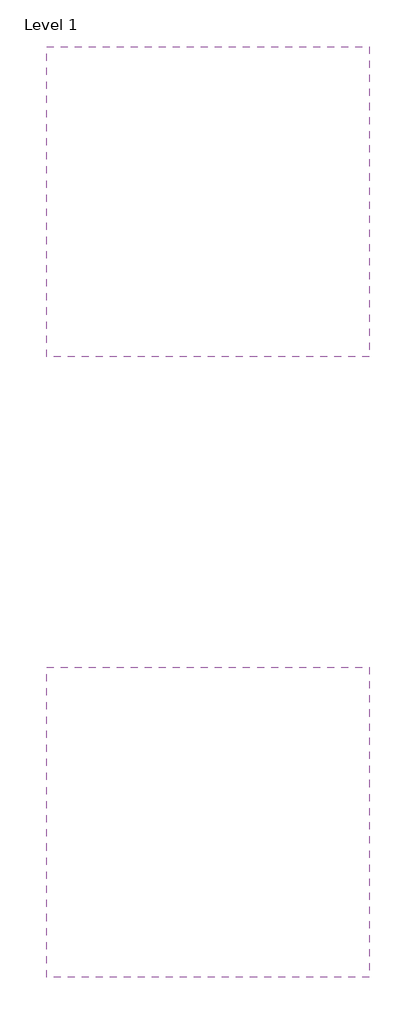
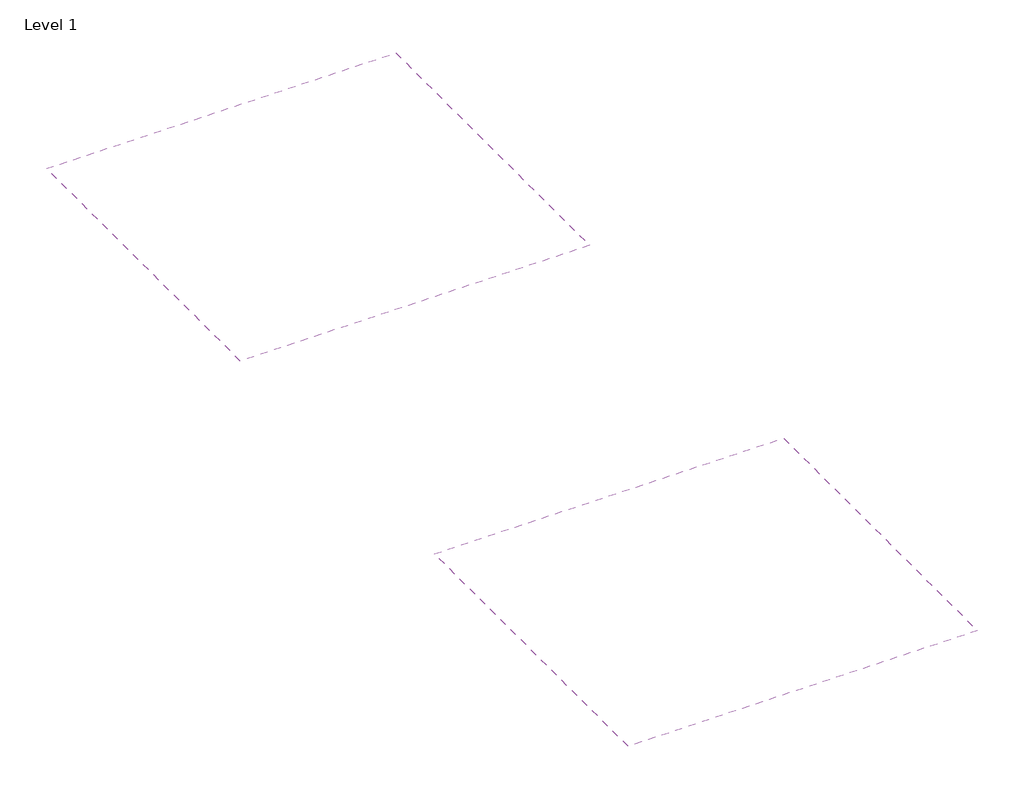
# One storey: 2 coverings.
"""IFC4 building model written with IfcOpenShell, lengths in millimetres."""

from ifc_helpers import new_model, si_unit, frame, origin, place, context, project, spatial, polyline, outline, extrude, element, save

model = new_model("IFC4")

# Units and contexts
model_context = context("Model", 3, world=origin())
ifc_project = project(units=[si_unit("LENGTHUNIT", "METRE", prefix="MILLI")], contexts=[model_context])

# Site, building, storey
site = spatial("IfcSite", under=ifc_project)
building = spatial("IfcBuilding", under=site)
storey = spatial("IfcBuildingStorey", under=building, Name="Level 1", Elevation=0.0)

# Coverings
placement = place(None, origin())
element("IfcCovering", 1, ObjectType="NBS_ArmstrongCeilingsLtd_UnitModularSuspendedCeilingSystem_BioguardPlainTegular-Prelude24Exposed_600x600x15mm_GB", at=placement, inside=storey, context=model_context, shape_type="SweptSolid", body=[
    extrude(outline(polyline([(2500.0, 7600.0), (2500.0, 5100.0), (-100.0, 5100.0), (-100.0, 7600.0), (2500.0, 7600.0)])), frame((0.0, 0.0, 2600.0), z_axis=(0.0, 0.0, 1.0), x_axis=(1.0, 0.0, 0.0)), (0.0, 0.0, 1.0), 49.5),
])
element("IfcCovering", 2, ObjectType="NBS_ArmstrongCeilingsLtd_UnitModularSuspendedCeilingSystem_BioguardPlainTegular-Prelude24Exposed_625x625x15mm_DE", at=placement, inside=storey, context=model_context, shape_type="SweptSolid", body=[
    extrude(outline(polyline([(2500.0, 2600.0), (2500.0, 100.0), (-100.0, 100.0), (-100.0, 2600.0), (2500.0, 2600.0)])), frame((0.0, 0.0, 2600.0), z_axis=(0.0, 0.0, 1.0), x_axis=(1.0, 0.0, 0.0)), (0.0, 0.0, 1.0), 49.5),
])

save(model, "model.ifc")
